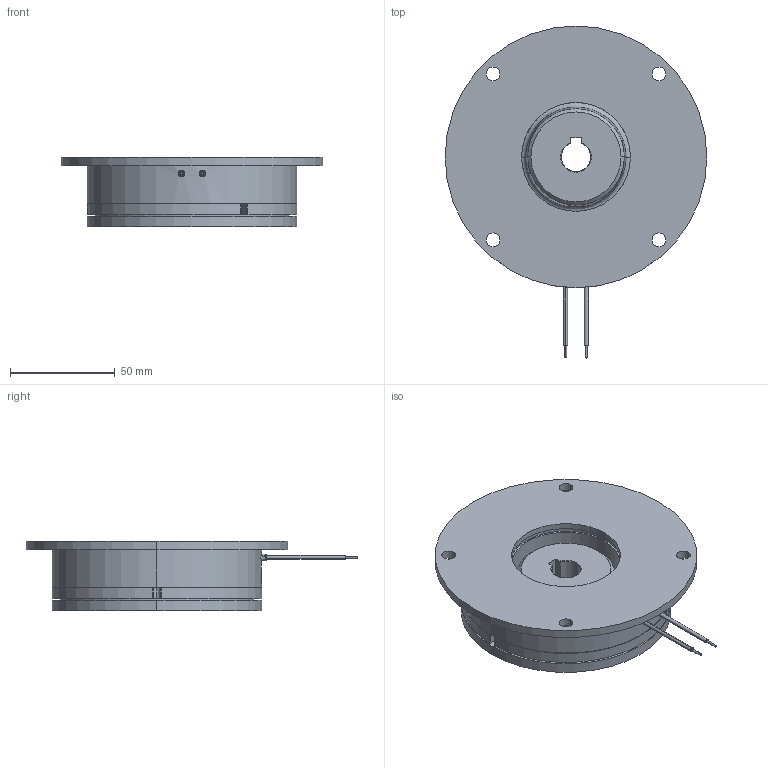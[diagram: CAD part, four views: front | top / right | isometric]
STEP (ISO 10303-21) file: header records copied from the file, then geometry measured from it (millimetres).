
FILE_DESCRIPTION (( 'STEP AP214' ), '1' );
FILE_NAME ('dr_bk_0802-120_mu.STEP', '2021-11-10T10:13:45', ( '' ), ( '' ), 'SwSTEP 2.0', 'SolidWorks 2019', '' );
FILE_SCHEMA (( 'AUTOMOTIVE_DESIGN' ));
Length unit declared in the file: millimetre
Products named in the file (9): 10068818_000; 10068822_000; 10068821_000; 10068819_000_Einbaul„nge 3,85; 10068817_000; 10068697_000; dr_bk_0802-120_mu; 10068820_000; 10068816_000
Assembly tree (18 placements, depth 4):
  dr_bk_0802-120_mu
    10068697_000
    10068818_000
      10068822_000
      10068817_000
        10068816_000
        10068821_000
        10068820_000  x3
        10068819_000_Einbaul„nge 3,85  x3
      10068820_000  x3
      10068819_000_Einbaul„nge 3,85  x3
Bounding box: 125 x 158.5 x 33.2 mm (x, y, z)
Volume: 240080.9 mm3; surface area: 78174.3 mm2
Topology: 18 solids, 18 shells, 609 faces, 1557 edges, 998 vertices
Faces by surface type: cylinder 181, plane 158, bspline 135, cone 78, torus 45, sphere 12
Entity records: 24272 total; most frequent: CARTESIAN_POINT 11728, ORIENTED_EDGE 2590, DIRECTION 1985, EDGE_CURVE 1295, VERTEX_POINT 848, AXIS2_PLACEMENT_3D 746, EDGE_LOOP 565, VECTOR 493
